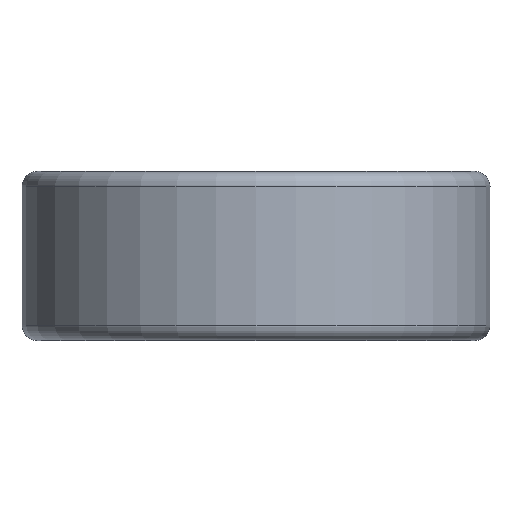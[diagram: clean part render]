
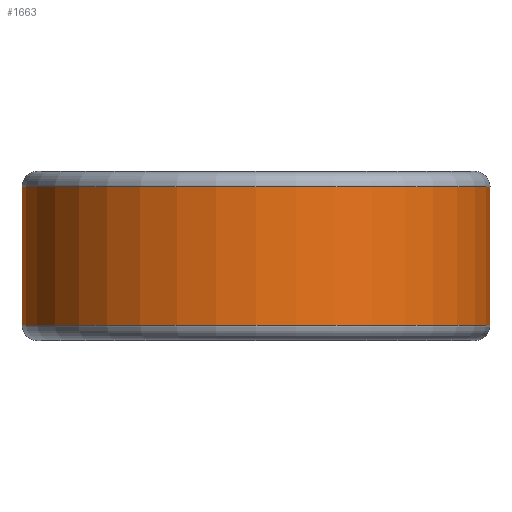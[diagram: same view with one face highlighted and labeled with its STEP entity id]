
A CAD part, left-side view. The second image highlights one B-rep face of the part: STEP entity #1663.
In plain terms, the highlighted cylindrical face has radius 18 mm (diameter 36 mm), a partial arc.
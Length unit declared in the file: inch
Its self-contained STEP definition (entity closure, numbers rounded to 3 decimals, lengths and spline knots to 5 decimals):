
#145=CARTESIAN_POINT('',(0.70797,-0.0313,
0.04606));
#155=DIRECTION('',(0.,0.,1.));
#156=VECTOR('',#155,0.4197);
#157=CARTESIAN_POINT('',(0.70797,-0.0313,
0.04606));
#158=LINE('',#157,#156);
#167=CARTESIAN_POINT('',(0.70797,-0.0313,
0.46576));
#229=CARTESIAN_POINT('',(0.70797,0.0313,
0.46576));
#239=DIRECTION('',(0.,0.,-1.));
#240=VECTOR('',#239,0.4197);
#241=CARTESIAN_POINT('',(0.70797,0.0313,
0.46576));
#242=LINE('',#241,#240);
#251=CARTESIAN_POINT('',(0.70797,0.0313,
0.04606));
#474=DIRECTION('',(0.,0.,1.));
#475=VECTOR('',#474,0.02476);
#476=CARTESIAN_POINT('',(0.68095,0.19625,
0.15689));
#477=LINE('',#476,#475);
#478=CARTESIAN_POINT('',(0.531,0.4693,0.07622));
#479=CARTESIAN_POINT('',(0.54162,0.45728,
0.07622));
#480=CARTESIAN_POINT('',(0.56343,0.43097,
0.07807));
#481=CARTESIAN_POINT('',(0.59677,0.38379,
0.08746));
#482=CARTESIAN_POINT('',(0.62879,0.32904,
0.10371));
#483=CARTESIAN_POINT('',(0.65773,0.26697,
0.12666));
#484=CARTESIAN_POINT('',(0.67391,0.22067,
0.14623));
#485=CARTESIAN_POINT('',(0.68095,0.19625,
0.15689));
#487=CARTESIAN_POINT('',(0.531,0.4693,0.43559));
#488=CARTESIAN_POINT('',(0.51883,0.48307,
0.43559));
#489=CARTESIAN_POINT('',(0.49483,0.50807,
0.43311));
#490=CARTESIAN_POINT('',(0.46103,0.53875,
0.42265));
#491=CARTESIAN_POINT('',(0.43057,0.56323,
0.40617));
#492=CARTESIAN_POINT('',(0.40464,0.58201,
0.38507));
#493=CARTESIAN_POINT('',(0.38351,0.59606,
0.36021));
#494=CARTESIAN_POINT('',(0.36742,0.60604,
0.3325));
#495=CARTESIAN_POINT('',(0.35658,0.61244,
0.30277));
#496=CARTESIAN_POINT('',(0.35105,0.6156,
0.27146));
#497=CARTESIAN_POINT('',(0.35113,0.61556,
0.23952));
#498=CARTESIAN_POINT('',(0.3568,0.61231,
0.20822));
#499=CARTESIAN_POINT('',(0.36779,0.60581,
0.17852));
#500=CARTESIAN_POINT('',(0.38399,0.59575,
0.15092));
#501=CARTESIAN_POINT('',(0.40514,0.58167,
0.1263));
#502=CARTESIAN_POINT('',(0.43095,0.56294,
0.10536));
#503=CARTESIAN_POINT('',(0.46128,0.53853,
0.08911));
#504=CARTESIAN_POINT('',(0.49491,0.50798,
0.07867));
#505=CARTESIAN_POINT('',(0.51885,0.48304,
0.07622));
#506=CARTESIAN_POINT('',(0.531,0.4693,0.07622));
#508=CARTESIAN_POINT('',(0.68095,0.19625,
0.35492));
#509=CARTESIAN_POINT('',(0.67391,0.22066,
0.36557));
#510=CARTESIAN_POINT('',(0.65774,0.26694,
0.3851));
#511=CARTESIAN_POINT('',(0.62882,0.32899,
0.40807));
#512=CARTESIAN_POINT('',(0.59681,0.38373,
0.42438));
#513=CARTESIAN_POINT('',(0.56345,0.43094,
0.4337));
#514=CARTESIAN_POINT('',(0.54163,0.45727,
0.43559));
#515=CARTESIAN_POINT('',(0.531,0.4693,0.43559));
#517=DIRECTION('',(0.,0.,1.));
#518=VECTOR('',#517,0.02476);
#519=CARTESIAN_POINT('',(0.68095,0.19625,
0.33016));
#520=LINE('',#519,#518);
#521=DIRECTION('',(0.,0.,-1.));
#522=VECTOR('',#521,0.1485);
#523=CARTESIAN_POINT('',(0.68095,0.19625,
0.33016));
#524=LINE('',#523,#522);
#525=CARTESIAN_POINT('',(0.,0.,0.04606));
#526=DIRECTION('',(0.,0.,-1.));
#527=DIRECTION('',(0.999,-0.044,0.));
#528=AXIS2_PLACEMENT_3D('',#525,#526,#527);
#530=CARTESIAN_POINT('',(0.531,-0.4693,0.17116));
#531=CARTESIAN_POINT('',(0.5239,-0.47733,
0.17116));
#532=CARTESIAN_POINT('',(0.51021,-0.4921,
0.17291));
#533=CARTESIAN_POINT('',(0.49129,-0.51092,
0.18015));
#534=CARTESIAN_POINT('',(0.47512,-0.52592,
0.19123));
#535=CARTESIAN_POINT('',(0.4624,-0.53707,
0.20503));
#536=CARTESIAN_POINT('',(0.45348,-0.54459,
0.22027));
#537=CARTESIAN_POINT('',(0.44809,-0.54902,
0.236));
#538=CARTESIAN_POINT('',(0.44583,-0.55085,
0.25205));
#539=CARTESIAN_POINT('',(0.44662,-0.55021,
0.26801));
#540=CARTESIAN_POINT('',(0.45033,-0.54719,
0.28347));
#541=CARTESIAN_POINT('',(0.45693,-0.54171,
0.29816));
#542=CARTESIAN_POINT('',(0.46642,-0.5336,0.31162));
#543=CARTESIAN_POINT('',(0.47868,-0.52267,
0.32332));
#544=CARTESIAN_POINT('',(0.49371,-0.50855,
0.33272));
#545=CARTESIAN_POINT('',(0.5112,-0.49104,
0.33904));
#546=CARTESIAN_POINT('',(0.52421,-0.47698,
0.34066));
#547=CARTESIAN_POINT('',(0.531,-0.4693,0.34066));
#764=CARTESIAN_POINT('',(0.,0.,0.46575));
#765=DIRECTION('',(0.,0.,1.));
#766=DIRECTION('',(0.999,0.044,0.));
#767=AXIS2_PLACEMENT_3D('',#764,#765,#766);
#769=CARTESIAN_POINT('',(0.531,-0.4693,0.34066));
#770=CARTESIAN_POINT('',(0.53789,-0.4615,
0.34066));
#771=CARTESIAN_POINT('',(0.5507,-0.44631,
0.33899));
#772=CARTESIAN_POINT('',(0.56687,-0.42551,
0.33326));
#773=CARTESIAN_POINT('',(0.58034,-0.40689,
0.32535));
#774=CARTESIAN_POINT('',(0.59129,-0.39075,
0.31601));
#775=CARTESIAN_POINT('',(0.60006,-0.37709,
0.30563));
#776=CARTESIAN_POINT('',(0.6069,-0.36596,
0.29435));
#777=CARTESIAN_POINT('',(0.61189,-0.35747,
0.28232));
#778=CARTESIAN_POINT('',(0.61511,-0.35196,
0.26908));
#779=CARTESIAN_POINT('',(0.61615,-0.35011,
0.25479));
#780=CARTESIAN_POINT('',(0.61475,-0.35257,
0.24068));
#781=CARTESIAN_POINT('',(0.61133,-0.35845,
0.2279));
#782=CARTESIAN_POINT('',(0.60625,-0.36703,
0.21623));
#783=CARTESIAN_POINT('',(0.5994,-0.37815,
0.20529));
#784=CARTESIAN_POINT('',(0.59064,-0.39172,
0.19518));
#785=CARTESIAN_POINT('',(0.57974,-0.40773,
0.18606));
#786=CARTESIAN_POINT('',(0.56639,-0.42615,
0.17834));
#787=CARTESIAN_POINT('',(0.5504,-0.44667,
0.17277));
#788=CARTESIAN_POINT('',(0.53778,-0.46162,
0.17116));
#789=CARTESIAN_POINT('',(0.531,-0.4693,0.17116));
#856=VERTEX_POINT('',#145);
#857=VERTEX_POINT('',#167);
#872=VERTEX_POINT('',#229);
#874=VERTEX_POINT('',#251);
#922=CARTESIAN_POINT('',(0.68095,0.19625,
0.15689));
#923=CARTESIAN_POINT('',(0.68095,0.19625,
0.18165));
#924=VERTEX_POINT('',#922);
#925=VERTEX_POINT('',#923);
#926=VERTEX_POINT('',#478);
#927=VERTEX_POINT('',#487);
#928=VERTEX_POINT('',#508);
#929=CARTESIAN_POINT('',(0.68095,0.19625,
0.33016));
#930=VERTEX_POINT('',#929);
#931=VERTEX_POINT('',#530);
#932=VERTEX_POINT('',#547);
#1631=CARTESIAN_POINT('',(0.,0.,0.51181));
#1632=DIRECTION('',(0.,0.,-1.));
#1633=DIRECTION('',(-1.,0.,0.));
#1634=AXIS2_PLACEMENT_3D('',#1631,#1632,#1633);
#1635=CYLINDRICAL_SURFACE('',#1634,0.70866);
#1636=ORIENTED_EDGE('',*,*,#1617,.T.);
#1637=ORIENTED_EDGE('',*,*,#1180,.F.);
#1639=ORIENTED_EDGE('',*,*,#1638,.T.);
#1640=ORIENTED_EDGE('',*,*,#1099,.F.);
#1641=EDGE_LOOP('',(#1636,#1637,#1639,#1640));
#1642=FACE_OUTER_BOUND('',#1641,.F.);
#1644=ORIENTED_EDGE('',*,*,#1643,.F.);
#1646=ORIENTED_EDGE('',*,*,#1645,.F.);
#1648=ORIENTED_EDGE('',*,*,#1647,.F.);
#1650=ORIENTED_EDGE('',*,*,#1649,.F.);
#1652=ORIENTED_EDGE('',*,*,#1651,.F.);
#1654=ORIENTED_EDGE('',*,*,#1653,.T.);
#1655=EDGE_LOOP('',(#1644,#1646,#1648,#1650,#1652,#1654));
#1656=FACE_BOUND('',#1655,.F.);
#1658=ORIENTED_EDGE('',*,*,#1657,.F.);
#1660=ORIENTED_EDGE('',*,*,#1659,.F.);
#1661=EDGE_LOOP('',(#1658,#1660));
#1662=FACE_BOUND('',#1661,.F.);
#486=B_SPLINE_CURVE_WITH_KNOTS('',3,(#478,#479,#480,#481,#482,#483,#484,#485),
.UNSPECIFIED.,.F.,.F.,(4,1,1,1,1,4),(0.,0.2,0.4,0.6,0.8,1.),
.UNSPECIFIED.);
#507=B_SPLINE_CURVE_WITH_KNOTS('',3,(#487,#488,#489,#490,#491,#492,#493,#494,
#495,#496,#497,#498,#499,#500,#501,#502,#503,#504,#505,#506),.UNSPECIFIED.,.F.,
.F.,(4,1,1,1,1,1,1,1,1,1,1,1,1,1,1,1,1,4),(0.,0.05882,
0.11765,0.17647,0.23529,0.29412,
0.35294,0.41176,0.47059,0.52941,
0.58824,0.64706,0.70588,0.76471,
0.82353,0.88235,0.94118,1.),.UNSPECIFIED.);
#516=B_SPLINE_CURVE_WITH_KNOTS('',3,(#508,#509,#510,#511,#512,#513,#514,#515),
.UNSPECIFIED.,.F.,.F.,(4,1,1,1,1,4),(0.,0.2,0.4,0.6,0.8,1.),
.UNSPECIFIED.);
#529=CIRCLE('',#528,0.70866);
#548=B_SPLINE_CURVE_WITH_KNOTS('',3,(#530,#531,#532,#533,#534,#535,#536,#537,
#538,#539,#540,#541,#542,#543,#544,#545,#546,#547),.UNSPECIFIED.,.F.,.F.,(4,1,1,
1,1,1,1,1,1,1,1,1,1,1,1,4),(0.,0.06667,0.13333,0.2,
0.26667,0.33333,0.4,0.46667,0.53333,
0.6,0.66667,0.73333,0.8,0.86667,
0.93333,1.),.UNSPECIFIED.);
#768=CIRCLE('',#767,0.70866);
#790=B_SPLINE_CURVE_WITH_KNOTS('',3,(#769,#770,#771,#772,#773,#774,#775,#776,
#777,#778,#779,#780,#781,#782,#783,#784,#785,#786,#787,#788,#789),.UNSPECIFIED.,
.F.,.F.,(4,1,1,1,1,1,1,1,1,1,1,1,1,1,1,1,1,1,4),(0.,0.05556,
0.11111,0.16667,0.22222,0.27778,
0.33333,0.38889,0.44444,0.5,0.55556,
0.61111,0.66667,0.72222,0.77778,
0.83333,0.88889,0.94444,1.),.UNSPECIFIED.);
#1099=EDGE_CURVE('',#856,#857,#158,.T.);
#1180=EDGE_CURVE('',#872,#874,#242,.T.);
#1617=EDGE_CURVE('',#856,#874,#529,.T.);
#1638=EDGE_CURVE('',#872,#857,#768,.T.);
#1643=EDGE_CURVE('',#924,#925,#477,.T.);
#1645=EDGE_CURVE('',#926,#924,#486,.T.);
#1647=EDGE_CURVE('',#927,#926,#507,.T.);
#1649=EDGE_CURVE('',#928,#927,#516,.T.);
#1651=EDGE_CURVE('',#930,#928,#520,.T.);
#1653=EDGE_CURVE('',#930,#925,#524,.T.);
#1657=EDGE_CURVE('',#931,#932,#548,.T.);
#1659=EDGE_CURVE('',#932,#931,#790,.T.);
#1663=ADVANCED_FACE('',(#1642,#1656,#1662),#1635,.T.);
